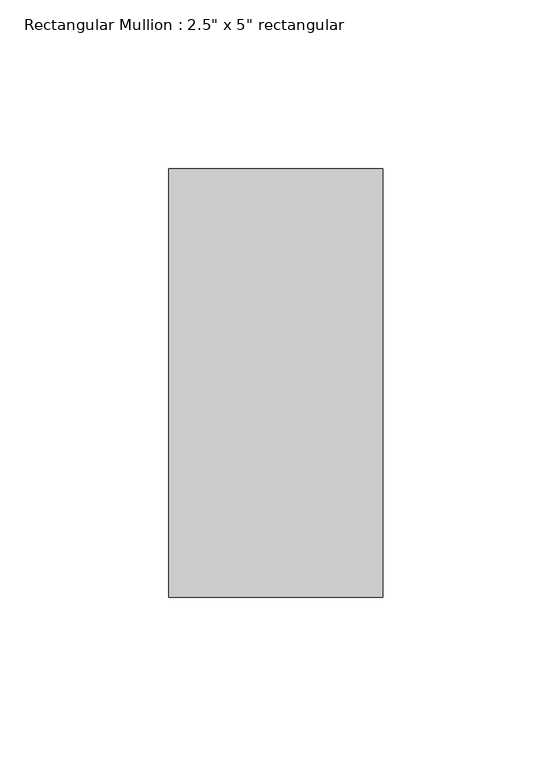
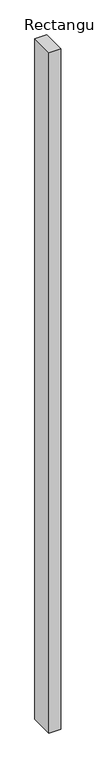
"""IFC4 building model written with IfcOpenShell, lengths in millimetres: member geometry."""

from ifc_helpers import new_model, si_unit, frame, origin, place, context, project, spatial, polyline, outline, extrude, source, transform, mapped, element, save


def member_19265363(model_context):
    return source(origin(), model_context, "Body", "SweptSolid", [
        extrude(outline(polyline([(31.75, 63.5), (31.75, -63.5), (-31.75, -63.5), (-31.75, 63.5), (31.75, 63.5)])), frame((0.0, 0.0, -3785.5257724), z_axis=(0.0, 0.0, 1.0), x_axis=(1.0, 0.0, 0.0)), (0.0, 0.0, 1.0), 3785.5257724),
    ])


if __name__ == "__main__":
    model = new_model("IFC4")
    model_context = context("Model", 3, world=origin())
    ifc_project = project(units=[si_unit("LENGTHUNIT", "METRE", prefix="MILLI")], contexts=[model_context])
    site = spatial("IfcSite", under=ifc_project)
    building = spatial("IfcBuilding", under=site)
    placement = place(None, origin())
    member_shape = member_19265363(model_context)
    element("IfcMember", 1, ObjectType="Rectangular Mullion : 2.5\" x 5\" rectangular", at=placement, inside=building, context=model_context, shape_type="MappedRepresentation", body=[
        mapped(member_shape, transform((0.0, 0.0, 0.0), x_axis=(1.0, 0.0, 0.0), y_axis=(0.0, 1.0, 0.0), z_axis=(0.0, 0.0, 1.0))),
    ])
    save(model, "model.ifc")
